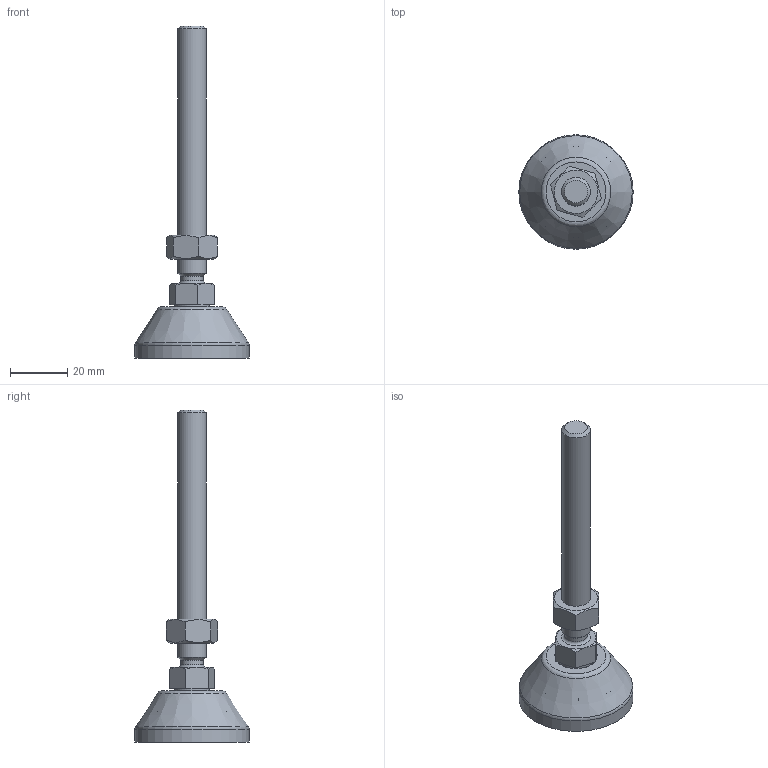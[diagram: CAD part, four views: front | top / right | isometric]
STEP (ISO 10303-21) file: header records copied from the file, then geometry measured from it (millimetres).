
FILE_DESCRIPTION(('STEP AP203'), '1');
FILE_NAME('栖闉罻', '', ('UNSPECIFIED'), ('UNSPECIFIED'), 'C3D Converter', 'C3D Toolkit', '');
FILE_SCHEMA(('CONFIG_CONTROL_DESIGN'));
Length unit declared in the file: millimetre
Products named in the file (4): A00015.1040; A00020.110090
Assembly tree (3 placements, depth 3):
  (unnamed)
    A00015.1040
    A00020.110090
      (unnamed)
Bounding box: 40 x 40 x 116.1 mm (x, y, z)
Volume: 21075 mm3; surface area: 11129.7 mm2
Topology: 3 solids, 3 shells, 142 faces, 392 edges, 260 vertices
Faces by surface type: plane 78, cylinder 26, torus 21, cone 15, sphere 2
Full cylindrical faces by diameter (mm): 8 x1, 8.376 x1, 10 x1, 12 x1, 14.3 x1, 15 x2, 15.5 x1, 32 x1, 40 x1
Entity records: 8123 total; most frequent: CARTESIAN_POINT 3270, ORIENTED_EDGE 730, DIRECTION 728, EDGE_CURVE 365, AXIS2_PLACEMENT_3D 291, VERTEX_POINT 259, EDGE_LOOP 174, FACE_BOUND 151
